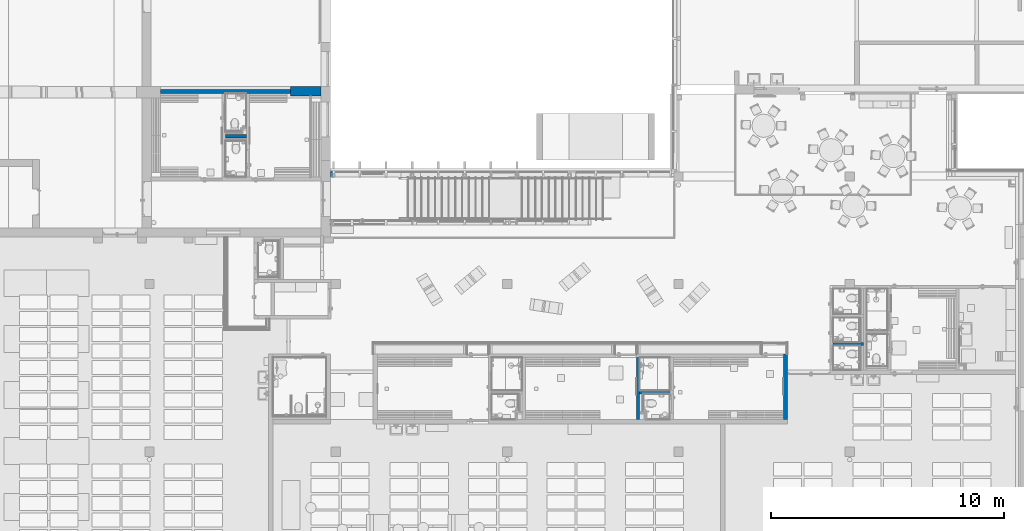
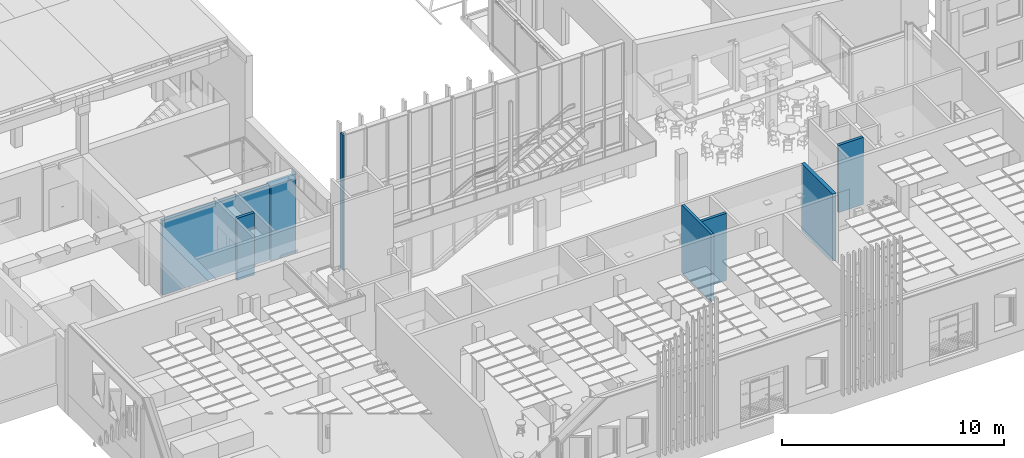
# One storey, part 128 of 301: 8 walls.
"""IFC2X3 building model written with IfcOpenShell, lengths in millimetres."""

from ifc_helpers import new_model, entity, si_unit, converted_unit, derived_unit, money_unit, direction, frame, origin_with_axes, place, context, subcontext, project, spatial, faceted_brep, material, type_object, element, save


model = new_model("IFC2X3")

# Units and contexts
model_context = context("Model", 3, precision=0.01, world=origin_with_axes(), true_north=direction((0.0, 1.0)))
body_context = subcontext(model_context, "Body", "Model", "MODEL_VIEW")
ifc_project = project(units=[si_unit("LENGTHUNIT", "METRE", prefix="MILLI"), si_unit("AREAUNIT", "SQUARE_METRE"), si_unit("VOLUMEUNIT", "CUBIC_METRE"), converted_unit("PLANEANGLEUNIT", "DEGREE", entity("IfcPlaneAngleMeasure", 0.0174532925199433), si_unit("PLANEANGLEUNIT", "RADIAN"), dimensions=[0, 0, 0, 0, 0, 0, 0]), money_unit("EUR"), converted_unit("TIMEUNIT", "Year", entity("IfcTimeMeasure", 31557600.0), si_unit("TIMEUNIT", "SECOND"), dimensions=[0, 0, 1, 0, 0, 0, 0]), si_unit("MASSUNIT", "GRAM", prefix="KILO"), si_unit("THERMODYNAMICTEMPERATUREUNIT", "DEGREE_CELSIUS"), si_unit("LUMINOUSINTENSITYUNIT", "LUMEN"), si_unit("ENERGYUNIT", "JOULE", prefix="MEGA"), derived_unit("THERMALCONDUCTANCEUNIT", [(si_unit("POWERUNIT", "WATT"), 1), (si_unit("LENGTHUNIT", "METRE"), -1), (si_unit("THERMODYNAMICTEMPERATUREUNIT", "KELVIN"), -1)]), derived_unit("SPECIFICHEATCAPACITYUNIT", [(si_unit("ENERGYUNIT", "JOULE"), 1), (si_unit("MASSUNIT", "GRAM", prefix="KILO"), -1), (si_unit("THERMODYNAMICTEMPERATUREUNIT", "KELVIN"), -1)]), derived_unit("MASSDENSITYUNIT", [(si_unit("MASSUNIT", "GRAM", prefix="KILO"), 1), (si_unit("VOLUMEUNIT", "CUBIC_METRE"), -1)])], contexts=[model_context])

# Site, building, storey
site_placement = place(None, frame((0.0, 0.0, 8650.0), z_axis=(0.0, 0.0, 1.0), x_axis=(1.0, 0.0, 0.0)))
site = spatial("IfcSite", under=ifc_project, at=site_placement, Name="43301:001:0844", CompositionType="ELEMENT")
building_placement = place(site_placement, origin_with_axes())
building = spatial("IfcBuilding", under=site, at=building_placement, Name="Kuressaare Ametikooli tuulikute mehaanikute õppekorpus", CompositionType="ELEMENT")
storey_placement = place(building_placement, origin_with_axes())
storey = spatial("IfcBuildingStorey", under=building, at=storey_placement, Name="1.korrus", CompositionType="ELEMENT", Elevation=0.0)

# Walls
ifc_material_1 = material(Name="Betoonõõnesplokk")
wall_type_1 = type_object("IfcWallType", Name="SS-1.2 140", PredefinedType="NOTDEFINED")
wall_1_placement = place(storey_placement, frame((98987.70666438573, 30117.97233078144, 0.0), z_axis=(0.0, 0.0, 1.0), x_axis=(1.0, 0.0, 0.0)))
element("IfcWall", 1, at=wall_1_placement, inside=storey, type_object=wall_type_1, material=ifc_material_1, Name="Sisesein", context=body_context, shape_type="Brep", body=[
    faceted_brep([(1039.999999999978, 70.00000000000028, 0.0), (1039.999999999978, -70.00000000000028, 0.0), (140.0000000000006, -70.00000000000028, 0.0), (140.0000000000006, 70.00000000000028, 0.0), (1039.999999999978, 70.00000000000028, 3410.0), (1039.999999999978, -70.00000000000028, 3410.0), (140.0000000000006, -70.00000000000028, 3410.0), (140.0000000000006, 70.00000000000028, 3410.0)], [[[0, 1, 2, 3]], [[1, 0, 4, 5]], [[1, 5, 6, 2]], [[7, 3, 2, 6]], [[4, 0, 3, 7]], [[5, 4, 7, 6]]]),
])
wall_2_placement = place(storey_placement, frame((126505.2608664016, 21274.47001947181, 0.0), z_axis=(0.0, 0.0, 1.0), x_axis=(-0.9999999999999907, -1.3695119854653e-07, 0.0)))
element("IfcWall", 2, at=wall_2_placement, inside=storey, type_object=wall_type_1, material=ifc_material_1, Name="Sisesein", context=body_context, shape_type="Brep", body=[
    faceted_brep([(1300.000105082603, 0.0, 0.0), (1300.000105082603, 0.0, 3690.0), (-0.0001742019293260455, 0.0, 3690.0), (-0.0001742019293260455, 0.0, 0.0), (1300.000105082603, 139.999999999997, 0.0), (1300.000105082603, 140.0000000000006, 3690.0), (-0.0001550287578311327, 140.0000000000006, 3690.0), (-0.0001550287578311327, 139.999999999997, 0.0)], [[[0, 1, 2, 3]], [[4, 5, 1, 0]], [[5, 6, 2, 1]], [[3, 2, 6, 7]], [[3, 7, 4, 0]], [[7, 6, 5, 4]]]),
])
wall_3_placement = place(storey_placement, frame((116905.2607063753, 19054.83622676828, 0.0), z_axis=(0.0, 0.0, 1.0), x_axis=(0.9999999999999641, 2.679454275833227e-07, 0.0)))
element("IfcWall", 3, at=wall_3_placement, inside=storey, type_object=wall_type_1, material=ifc_material_1, Name="Sisesein", context=body_context, shape_type="Brep", body=[
    faceted_brep([(0.002621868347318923, 139.9999999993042, 0.0), (0.002621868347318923, 139.9999999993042, 3690.0), (1300.000144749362, 139.9996516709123, 3690.0), (1300.000144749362, 139.9996516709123, 0.0), (0.002895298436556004, -7.744915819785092e-10, 0.0), (0.002895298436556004, -7.744915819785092e-10, 3690.0), (1300.000144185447, -0.0003483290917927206, 3690.0), (1300.000144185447, -0.0003483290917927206, 0.0)], [[[0, 1, 2, 3]], [[4, 5, 1, 0]], [[5, 6, 2, 1]], [[3, 2, 6, 7]], [[4, 0, 3, 7]], [[7, 6, 5, 4]]]),
])
wall_4_placement = place(storey_placement, frame((116905.2660448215, 17954.82338479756, 0.0), z_axis=(0.0, 0.0, 1.0), x_axis=(-2.221017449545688e-06, 0.9999999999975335, 0.0)))
element("IfcWall", 4, at=wall_4_placement, inside=storey, type_object=wall_type_1, material=ifc_material_1, Name="Sisesein", context=body_context, shape_type="Brep", body=[
    faceted_brep([(2670.014168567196, 140.0000000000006, 0.0), (2670.014168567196, 140.0000000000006, 3690.0), (2670.013876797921, 0.0, 3690.0), (2670.013876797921, 0.0, 0.0), (0.0, 140.0000000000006, 0.0), (0.0, 140.0000000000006, 3690.0), (0.0, 0.0, 3690.0), (0.0, 0.0, 0.0)], [[[0, 1, 2, 3]], [[4, 5, 1, 0]], [[5, 6, 2, 1]], [[3, 2, 6, 7]], [[7, 4, 0, 3]], [[7, 6, 5, 4]]]),
])
ifc_material_2 = material(Name="Betoonplokk")
wall_type_2 = type_object("IfcWallType", Name="SS-1.1 190", PredefinedType="NOTDEFINED")
wall_5_placement = place(storey_placement, frame((123065.2609256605, 17954.83706625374, 0.0), z_axis=(0.0, 0.0, 1.0), x_axis=(0.0, 1.0, 0.0)))
element("IfcWall", 5, at=wall_5_placement, inside=storey, type_object=wall_type_2, material=ifc_material_2, Name="Sisesein", context=body_context, shape_type="Brep", body=[
    faceted_brep([(2810.001038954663, 0.0, 0.0), (2810.001038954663, 0.0, 3690.0), (2810.001064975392, -189.9999999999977, 3690.0), (2810.001064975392, -189.9999999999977, 0.0), (0.0, 0.0, 0.0), (0.0, 0.0, 3690.0), (0.0004219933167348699, -189.9999999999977, 3690.0), (0.0004219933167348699, -189.9999999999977, 0.0)], [[[0, 1, 2, 3]], [[4, 5, 1, 0]], [[5, 6, 2, 1]], [[3, 2, 6, 7]], [[4, 0, 3, 7]], [[7, 6, 5, 4]]]),
])
ifc_material_3 = material(Name="GENEERILINE - VÄLINE VOODER")
wall_type_3 = type_object("IfcWallType", Name="GENEERILINE - VÄLINE VOODER 250", PredefinedType="NOTDEFINED")
wall_6_placement = place(storey_placement, frame((103742.1026822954, 28359.57374875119, 0.0), z_axis=(0.0, 0.0, 1.0), x_axis=(-1.0, 0.0, 0.0)))
element("IfcWall", 6, at=wall_6_placement, inside=storey, type_object=wall_type_3, material=ifc_material_3, Name="Sisesein", context=body_context, shape_type="Brep", body=[
    faceted_brep([(94.59047526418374, -250.0, 0.0), (94.59047526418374, -250.0, 7009.271351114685), (94.59047526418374, -250.0, 7419.999945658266), (0.0, -250.0, 7419.999945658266), (0.0, -250.0, 0.0), (94.59047526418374, 0.0, 0.0), (94.59047526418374, 0.0, 7009.271351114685), (94.59047526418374, 0.0, 7419.999945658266), (0.0, 0.0, 7419.999945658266), (0.0, 0.0, 0.0)], [[[0, 1, 2, 3, 4]], [[5, 6, 1, 0]], [[2, 1, 6, 7]], [[8, 3, 2, 7]], [[4, 3, 8, 9]], [[9, 5, 0, 4]], [[7, 6, 5, 9, 8]]]),
])
ifc_material_4 = material(Name="GENEERILINE - KONSTRUKTRIOON")
wall_type_4 = type_object("IfcWallType", Name="GENEERILINE - KONSTRUKTRIOON 400", PredefinedType="NOTDEFINED")
wall_7_placement = place(storey_placement, frame((103647.5122070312, 32244.00949964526, -1000.0), z_axis=(0.0, 0.0, 1.0), x_axis=(-1.0, -2.113705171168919e-09, 0.0)))
element("IfcWall", 7, at=wall_7_placement, inside=storey, type_object=wall_type_4, material=ifc_material_4, context=body_context, shape_type="Brep", body=[
    faceted_brep([(420.0000000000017, -8.877591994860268e-07, 0.0), (420.0033505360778, -4.406977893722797e-06, 4100.000000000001), (420.0033505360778, -4.406977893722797e-06, 4410.0), (420.0000008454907, 399.9999991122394, 4410.0), (420.0000008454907, 399.9999991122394, 0.0), (1727.750507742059, -3.651955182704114e-06, 0.0), (1727.750507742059, -3.651955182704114e-06, 4100.000000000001), (420.4234885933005, 399.9999991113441, 4100.000000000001), (420.4234885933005, 399.9999991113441, 4410.0), (1727.750508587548, 399.9999963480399, 4100.000000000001), (1727.750508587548, 399.9999963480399, 0.0)], [[[0, 1, 2, 3, 4]], [[5, 6, 1, 0]], [[7, 8, 2, 1]], [[3, 2, 8]], [[8, 7, 9, 10, 4, 3]], [[5, 0, 4, 10]], [[10, 9, 6, 5]], [[7, 1, 6, 9]]]),
])
wall_type_5 = type_object("IfcWallType", Name="GENEERILINE - KONSTRUKTRIOON 160", PredefinedType="NOTDEFINED")
wall_8_placement = place(storey_placement, frame((101950.2887656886, 32114.00949895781, -1000.0), z_axis=(0.0, 0.0, 1.0), x_axis=(-1.0, -2.113706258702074e-09, 0.0)))
element("IfcWall", 8, at=wall_8_placement, inside=storey, type_object=wall_type_5, material=ifc_material_4, context=body_context, shape_type="Brep", body=[
    faceted_brep([(0.0, 0.0, 0.0), (5603.704740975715, -1.184458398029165e-05, 0.0), (5603.704740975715, -1.184458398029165e-05, 4100.000000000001), (0.0, 0.0, 4100.000000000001), (3.381899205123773e-07, 160.0000000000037, 0.0), (5603.704741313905, 159.9999881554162, 0.0), (5603.704741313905, 159.9999881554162, 4100.000000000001), (3.381899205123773e-07, 160.0000000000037, 4100.000000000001)], [[[0, 1, 2, 3]], [[4, 5, 1, 0]], [[5, 6, 2, 1]], [[3, 2, 6, 7]], [[4, 0, 3, 7]], [[7, 6, 5, 4]]]),
])

save(model, "model.ifc")
